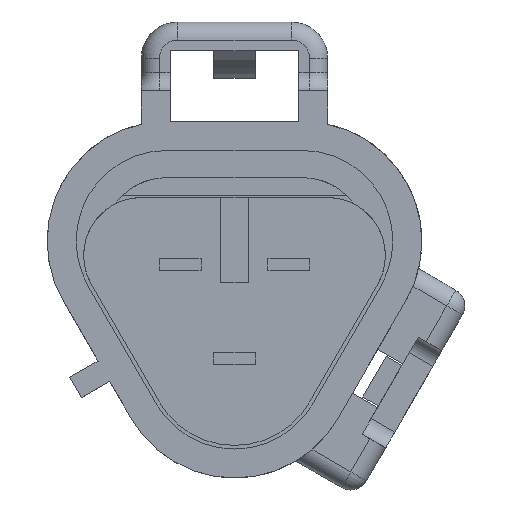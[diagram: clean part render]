
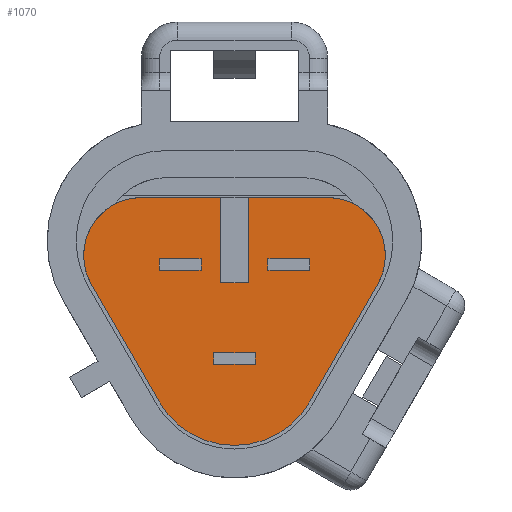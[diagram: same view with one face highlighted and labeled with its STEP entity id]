
A CAD part, left-side view. The second image highlights one B-rep face of the part: STEP entity #1070.
In plain terms, the highlighted planar face has unit normal (-1, 0, 0).
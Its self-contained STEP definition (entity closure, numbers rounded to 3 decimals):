
#761=CARTESIAN_POINT('Vertex',(0.,8.138,3.7)) ;
#764=CARTESIAN_POINT('Line Origine',(0.,5.944,3.7)) ;
#768=CARTESIAN_POINT('Vertex',(0.,3.75,3.7)) ;
#789=CARTESIAN_POINT('Vertex',(0.,2.25,3.7)) ;
#792=CARTESIAN_POINT('Line Origine',(0.,0.056,3.7)) ;
#796=CARTESIAN_POINT('Vertex',(0.,-2.138,3.7)) ;
#820=CARTESIAN_POINT('Axis2P3D Location',(0.,-2.138,0.5)) ;
#824=CARTESIAN_POINT('Vertex',(0.,-4.91,-1.1)) ;
#850=CARTESIAN_POINT('Vertex',(0.,10.91,-1.1)) ;
#853=CARTESIAN_POINT('Axis2P3D Location',(0.,8.138,0.5)) ;
#872=CARTESIAN_POINT('Line Origine',(0.,-3.033,-4.35)) ;
#876=CARTESIAN_POINT('Vertex',(0.,-1.157,-7.6)) ;
#900=CARTESIAN_POINT('Vertex',(0.,7.157,-7.6)) ;
#903=CARTESIAN_POINT('Line Origine',(0.,9.033,-4.35)) ;
#920=CARTESIAN_POINT('Axis2P3D Location',(0.,3.,-5.2)) ;
#932=CARTESIAN_POINT('Axis2P3D Location',(0.,0.,-11.8)) ;
#937=CARTESIAN_POINT('Line Origine',(0.,2.25,1.35)) ;
#941=CARTESIAN_POINT('Vertex',(0.,2.25,-1.)) ;
#944=CARTESIAN_POINT('Line Origine',(0.,3.,-1.)) ;
#948=CARTESIAN_POINT('Vertex',(0.,3.75,-1.)) ;
#951=CARTESIAN_POINT('Line Origine',(0.,3.75,1.35)) ;
#968=CARTESIAN_POINT('Line Origine',(0.,-1.15,0.)) ;
#972=CARTESIAN_POINT('Vertex',(0.,-1.15,-0.32)) ;
#974=CARTESIAN_POINT('Vertex',(0.,-1.15,0.32)) ;
#977=CARTESIAN_POINT('Line Origine',(0.,0.,-0.32)) ;
#981=CARTESIAN_POINT('Vertex',(0.,1.15,-0.32)) ;
#984=CARTESIAN_POINT('Line Origine',(0.,1.15,0.)) ;
#988=CARTESIAN_POINT('Vertex',(0.,1.15,0.32)) ;
#991=CARTESIAN_POINT('Line Origine',(0.,0.,0.32)) ;
#1002=CARTESIAN_POINT('Line Origine',(0.,1.85,-5.196)) ;
#1006=CARTESIAN_POINT('Vertex',(0.,1.85,-5.516)) ;
#1008=CARTESIAN_POINT('Vertex',(0.,1.85,-4.876)) ;
#1011=CARTESIAN_POINT('Line Origine',(0.,3.,-5.516)) ;
#1015=CARTESIAN_POINT('Vertex',(0.,4.15,-5.516)) ;
#1018=CARTESIAN_POINT('Line Origine',(0.,4.15,-5.196)) ;
#1022=CARTESIAN_POINT('Vertex',(0.,4.15,-4.876)) ;
#1025=CARTESIAN_POINT('Line Origine',(0.,3.,-4.876)) ;
#1036=CARTESIAN_POINT('Line Origine',(0.,4.85,0.)) ;
#1040=CARTESIAN_POINT('Vertex',(0.,4.85,-0.32)) ;
#1042=CARTESIAN_POINT('Vertex',(0.,4.85,0.32)) ;
#1045=CARTESIAN_POINT('Line Origine',(0.,6.,-0.32)) ;
#1049=CARTESIAN_POINT('Vertex',(0.,7.15,-0.32)) ;
#1052=CARTESIAN_POINT('Line Origine',(0.,7.15,0.)) ;
#1056=CARTESIAN_POINT('Vertex',(0.,7.15,0.32)) ;
#1059=CARTESIAN_POINT('Line Origine',(0.,6.,0.32)) ;
#765=DIRECTION('Vector Direction',(0.,-1.,0.)) ;
#793=DIRECTION('Vector Direction',(0.,-1.,0.)) ;
#821=DIRECTION('Axis2P3D Direction',(-1.,0.,0.)) ;
#854=DIRECTION('Axis2P3D Direction',(-1.,0.,0.)) ;
#873=DIRECTION('Vector Direction',(0.,0.5,-0.866)) ;
#904=DIRECTION('Vector Direction',(0.,0.5,0.866)) ;
#921=DIRECTION('Axis2P3D Direction',(-1.,0.,0.)) ;
#933=DIRECTION('Axis2P3D Direction',(-1.,0.,-0.)) ;
#934=DIRECTION('Axis2P3D XDirection',(-0.,0.,1.)) ;
#938=DIRECTION('Vector Direction',(0.,0.,-1.)) ;
#945=DIRECTION('Vector Direction',(0.,1.,0.)) ;
#952=DIRECTION('Vector Direction',(0.,0.,-1.)) ;
#969=DIRECTION('Vector Direction',(0.,0.,1.)) ;
#978=DIRECTION('Vector Direction',(0.,1.,0.)) ;
#985=DIRECTION('Vector Direction',(0.,0.,-1.)) ;
#992=DIRECTION('Vector Direction',(0.,-1.,0.)) ;
#1003=DIRECTION('Vector Direction',(0.,0.,1.)) ;
#1012=DIRECTION('Vector Direction',(0.,1.,0.)) ;
#1019=DIRECTION('Vector Direction',(0.,0.,-1.)) ;
#1026=DIRECTION('Vector Direction',(0.,-1.,0.)) ;
#1037=DIRECTION('Vector Direction',(0.,0.,1.)) ;
#1046=DIRECTION('Vector Direction',(0.,1.,0.)) ;
#1053=DIRECTION('Vector Direction',(0.,0.,-1.)) ;
#1060=DIRECTION('Vector Direction',(0.,-1.,0.)) ;
#822=AXIS2_PLACEMENT_3D('Circle Axis2P3D',#820,#821,$) ;
#855=AXIS2_PLACEMENT_3D('Circle Axis2P3D',#853,#854,$) ;
#922=AXIS2_PLACEMENT_3D('Circle Axis2P3D',#920,#921,$) ;
#935=AXIS2_PLACEMENT_3D('Plane Axis2P3D',#932,#933,#934) ;
#957=ORIENTED_EDGE('',*,*,#770,.F.) ;
#958=ORIENTED_EDGE('',*,*,#857,.T.) ;
#959=ORIENTED_EDGE('',*,*,#907,.F.) ;
#960=ORIENTED_EDGE('',*,*,#924,.T.) ;
#961=ORIENTED_EDGE('',*,*,#878,.F.) ;
#962=ORIENTED_EDGE('',*,*,#826,.T.) ;
#963=ORIENTED_EDGE('',*,*,#798,.F.) ;
#964=ORIENTED_EDGE('',*,*,#943,.T.) ;
#965=ORIENTED_EDGE('',*,*,#950,.T.) ;
#966=ORIENTED_EDGE('',*,*,#955,.F.) ;
#997=ORIENTED_EDGE('',*,*,#976,.F.) ;
#998=ORIENTED_EDGE('',*,*,#983,.F.) ;
#999=ORIENTED_EDGE('',*,*,#990,.F.) ;
#1000=ORIENTED_EDGE('',*,*,#995,.F.) ;
#1031=ORIENTED_EDGE('',*,*,#1010,.F.) ;
#1032=ORIENTED_EDGE('',*,*,#1017,.F.) ;
#1033=ORIENTED_EDGE('',*,*,#1024,.F.) ;
#1034=ORIENTED_EDGE('',*,*,#1029,.F.) ;
#1065=ORIENTED_EDGE('',*,*,#1044,.F.) ;
#1066=ORIENTED_EDGE('',*,*,#1051,.F.) ;
#1067=ORIENTED_EDGE('',*,*,#1058,.F.) ;
#1068=ORIENTED_EDGE('',*,*,#1063,.F.) ;
#1001=FACE_BOUND('',#996,.T.) ;
#1035=FACE_BOUND('',#1030,.T.) ;
#1069=FACE_BOUND('',#1064,.T.) ;
#766=VECTOR('Line Direction',#765,1.) ;
#794=VECTOR('Line Direction',#793,1.) ;
#874=VECTOR('Line Direction',#873,1.) ;
#905=VECTOR('Line Direction',#904,1.) ;
#939=VECTOR('Line Direction',#938,1.) ;
#946=VECTOR('Line Direction',#945,1.) ;
#953=VECTOR('Line Direction',#952,1.) ;
#970=VECTOR('Line Direction',#969,1.) ;
#979=VECTOR('Line Direction',#978,1.) ;
#986=VECTOR('Line Direction',#985,1.) ;
#993=VECTOR('Line Direction',#992,1.) ;
#1004=VECTOR('Line Direction',#1003,1.) ;
#1013=VECTOR('Line Direction',#1012,1.) ;
#1020=VECTOR('Line Direction',#1019,1.) ;
#1027=VECTOR('Line Direction',#1026,1.) ;
#1038=VECTOR('Line Direction',#1037,1.) ;
#1047=VECTOR('Line Direction',#1046,1.) ;
#1054=VECTOR('Line Direction',#1053,1.) ;
#1061=VECTOR('Line Direction',#1060,1.) ;
#1070=ADVANCED_FACE('\X2\FF8AFF9FFF70FF82\X0\ \X2\FF8EFF9EFF83FF9EFF68FF70\X0\',(#967,#1001,#1035,#1069),#936,.T.) ;
#823=CIRCLE('generated circle',#822,3.2) ;
#856=CIRCLE('generated circle',#855,3.2) ;
#923=CIRCLE('generated circle',#922,4.8) ;
#770=EDGE_CURVE('',#762,#769,#767,.T.) ;
#798=EDGE_CURVE('',#790,#797,#795,.T.) ;
#826=EDGE_CURVE('',#825,#797,#823,.T.) ;
#857=EDGE_CURVE('',#762,#851,#856,.T.) ;
#878=EDGE_CURVE('',#825,#877,#875,.T.) ;
#907=EDGE_CURVE('',#901,#851,#906,.T.) ;
#924=EDGE_CURVE('',#901,#877,#923,.T.) ;
#943=EDGE_CURVE('',#790,#942,#940,.T.) ;
#950=EDGE_CURVE('',#942,#949,#947,.T.) ;
#955=EDGE_CURVE('',#769,#949,#954,.T.) ;
#976=EDGE_CURVE('',#973,#975,#971,.T.) ;
#983=EDGE_CURVE('',#982,#973,#980,.F.) ;
#990=EDGE_CURVE('',#989,#982,#987,.T.) ;
#995=EDGE_CURVE('',#975,#989,#994,.F.) ;
#1010=EDGE_CURVE('',#1007,#1009,#1005,.T.) ;
#1017=EDGE_CURVE('',#1016,#1007,#1014,.F.) ;
#1024=EDGE_CURVE('',#1023,#1016,#1021,.T.) ;
#1029=EDGE_CURVE('',#1009,#1023,#1028,.F.) ;
#1044=EDGE_CURVE('',#1041,#1043,#1039,.T.) ;
#1051=EDGE_CURVE('',#1050,#1041,#1048,.F.) ;
#1058=EDGE_CURVE('',#1057,#1050,#1055,.T.) ;
#1063=EDGE_CURVE('',#1043,#1057,#1062,.F.) ;
#956=EDGE_LOOP('',(#957,#958,#959,#960,#961,#962,#963,#964,#965,#966)) ;
#996=EDGE_LOOP('',(#997,#998,#999,#1000)) ;
#1030=EDGE_LOOP('',(#1031,#1032,#1033,#1034)) ;
#1064=EDGE_LOOP('',(#1065,#1066,#1067,#1068)) ;
#967=FACE_OUTER_BOUND('',#956,.T.) ;
#767=LINE('Line',#764,#766) ;
#795=LINE('Line',#792,#794) ;
#875=LINE('Line',#872,#874) ;
#906=LINE('Line',#903,#905) ;
#940=LINE('Line',#937,#939) ;
#947=LINE('Line',#944,#946) ;
#954=LINE('Line',#951,#953) ;
#971=LINE('Line',#968,#970) ;
#980=LINE('Line',#977,#979) ;
#987=LINE('Line',#984,#986) ;
#994=LINE('Line',#991,#993) ;
#1005=LINE('Line',#1002,#1004) ;
#1014=LINE('Line',#1011,#1013) ;
#1021=LINE('Line',#1018,#1020) ;
#1028=LINE('Line',#1025,#1027) ;
#1039=LINE('Line',#1036,#1038) ;
#1048=LINE('Line',#1045,#1047) ;
#1055=LINE('Line',#1052,#1054) ;
#1062=LINE('Line',#1059,#1061) ;
#936=PLANE('',#935) ;
#762=VERTEX_POINT('',#761) ;
#769=VERTEX_POINT('',#768) ;
#790=VERTEX_POINT('',#789) ;
#797=VERTEX_POINT('',#796) ;
#825=VERTEX_POINT('',#824) ;
#851=VERTEX_POINT('',#850) ;
#877=VERTEX_POINT('',#876) ;
#901=VERTEX_POINT('',#900) ;
#942=VERTEX_POINT('',#941) ;
#949=VERTEX_POINT('',#948) ;
#973=VERTEX_POINT('',#972) ;
#975=VERTEX_POINT('',#974) ;
#982=VERTEX_POINT('',#981) ;
#989=VERTEX_POINT('',#988) ;
#1007=VERTEX_POINT('',#1006) ;
#1009=VERTEX_POINT('',#1008) ;
#1016=VERTEX_POINT('',#1015) ;
#1023=VERTEX_POINT('',#1022) ;
#1041=VERTEX_POINT('',#1040) ;
#1043=VERTEX_POINT('',#1042) ;
#1050=VERTEX_POINT('',#1049) ;
#1057=VERTEX_POINT('',#1056) ;
